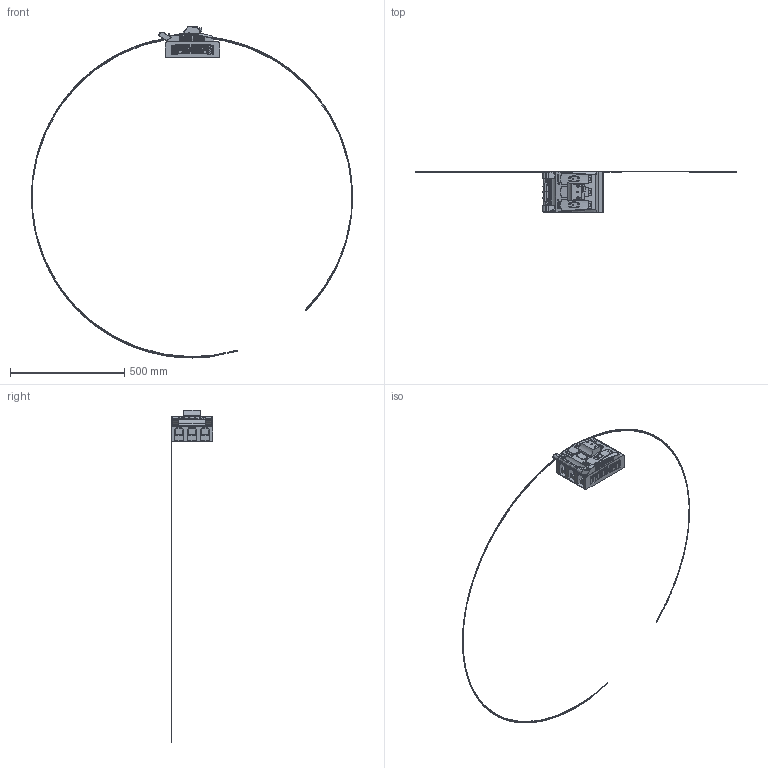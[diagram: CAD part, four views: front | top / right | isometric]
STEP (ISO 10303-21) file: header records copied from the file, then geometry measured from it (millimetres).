
FILE_DESCRIPTION(/* description */ (''),/* implementation_level */ '2;1');
FILE_NAME(/* name */ 'RBK 1 pro-X - 63-811785-021.stp',/* time_stamp */ '2019-03-07T15:30:40+01:00',/* author */ (''),/* organization */ (''),/* preprocessor_version */ 'ST-DEVELOPER v16',/* originating_system */ 'SIEMENS PLM Software NX 10.0',/* authorisation */ '');
FILE_SCHEMA (('AUTOMOTIVE_DESIGN { 1 0 10303 214 3 1 1 1 }'));
Products named in the file (1): 710_1570FDB6zv5l
Bounding box: 1406.97 x 180 x 1456.04 mm (x, y, z)
Volume: 3831172.7 mm3; surface area: 289713.1 mm2
Topology: 1 solids, 18 shells, 2458 faces, 6476 edges, 4121 vertices
Faces by surface type: plane 1496, bspline 286, cylinder 285, cone 170, torus 88, extrusion 79, sphere 36, revolution 18
Full cylindrical faces by diameter (mm): 4.5 x6, 11 x6
Entity records: 92885 total; most frequent: CARTESIAN_POINT 32535, ORIENTED_EDGE 12750, DIRECTION 11992, EDGE_CURVE 6375, AXIS2_PLACEMENT_3D 4571, VERTEX_POINT 4102, VECTOR 2832, LINE 2753
